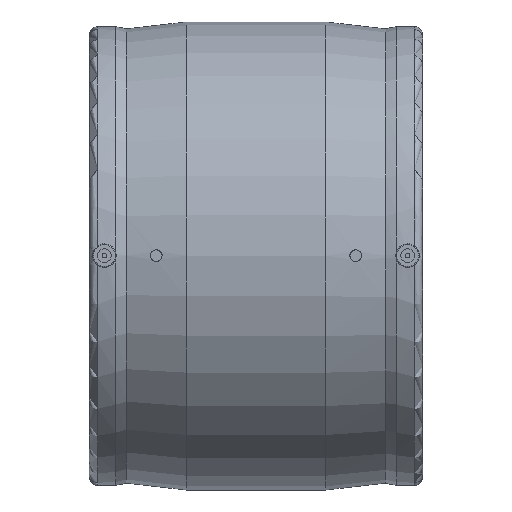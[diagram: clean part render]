
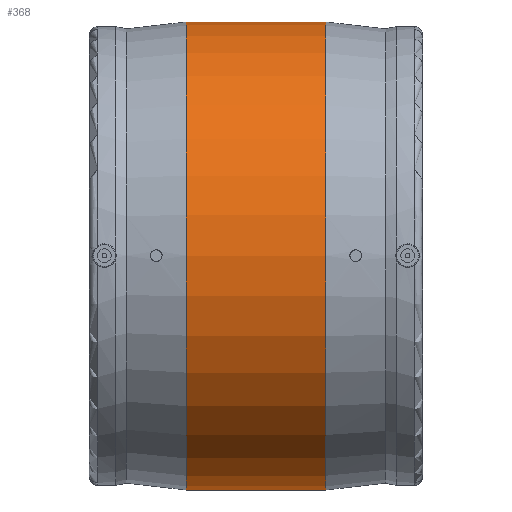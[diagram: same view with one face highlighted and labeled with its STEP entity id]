
A CAD part, top view. The second image highlights one B-rep face of the part: STEP entity #368.
In plain terms, the highlighted cylindrical face has radius 203 mm (diameter 406 mm), a full revolution.
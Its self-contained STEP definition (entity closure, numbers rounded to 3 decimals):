
#39=CYLINDRICAL_SURFACE('',#424,203.);
#85=ORIENTED_EDGE('',*,*,#152,.T.);
#86=ORIENTED_EDGE('',*,*,#153,.T.);
#152=EDGE_CURVE('',#186,#186,#215,.F.);
#153=EDGE_CURVE('',#187,#187,#216,.T.);
#186=VERTEX_POINT('',#694);
#187=VERTEX_POINT('',#696);
#215=CIRCLE('',#425,203.);
#216=CIRCLE('',#426,203.);
#251=EDGE_LOOP('',(#85));
#252=EDGE_LOOP('',(#86));
#311=FACE_BOUND('',#251,.T.);
#312=FACE_BOUND('',#252,.T.);
#368=ADVANCED_FACE('',(#311,#312),#39,.T.);
#424=AXIS2_PLACEMENT_3D('',#692,#507,#508);
#425=AXIS2_PLACEMENT_3D('',#693,#509,#510);
#426=AXIS2_PLACEMENT_3D('',#695,#511,#512);
#507=DIRECTION('',(-1.,0.,0.));
#508=DIRECTION('',(0.,0.,1.));
#509=DIRECTION('',(1.,0.,0.));
#510=DIRECTION('',(0.,0.,-1.));
#511=DIRECTION('',(1.,0.,0.));
#512=DIRECTION('',(0.,0.,-1.));
#692=CARTESIAN_POINT('',(-60.,0.,0.));
#693=CARTESIAN_POINT('',(60.442,0.,0.));
#694=CARTESIAN_POINT('',(60.442,0.,-203.));
#695=CARTESIAN_POINT('',(-60.442,0.,0.));
#696=CARTESIAN_POINT('',(-60.442,0.,-203.));
